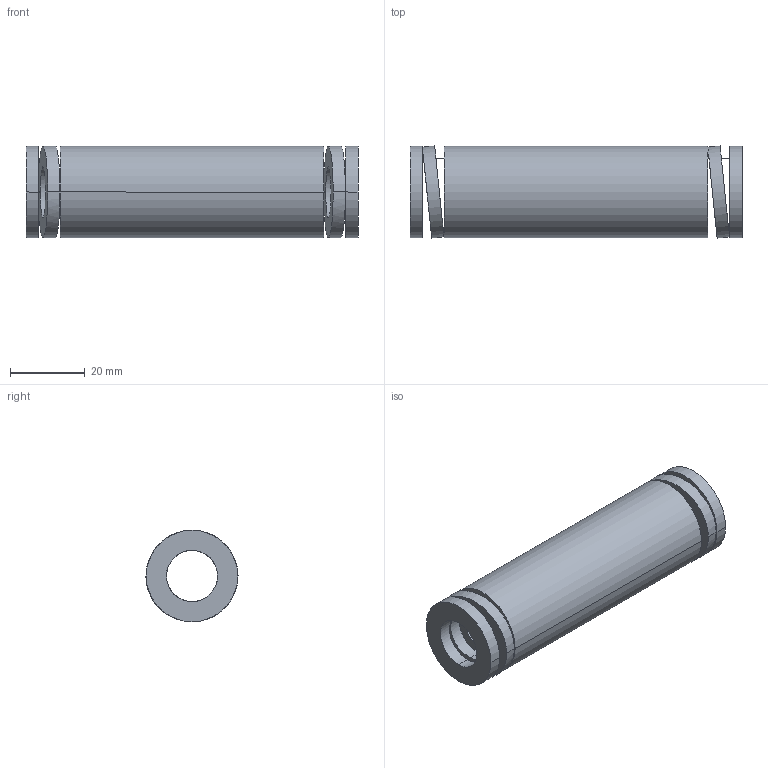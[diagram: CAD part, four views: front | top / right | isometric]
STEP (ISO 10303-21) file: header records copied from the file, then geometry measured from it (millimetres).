
FILE_DESCRIPTION(('CATIA V5 STEP Exchange'),'2;1');
FILE_NAME('C:\Users\Utente\Desktop\IO LAVORO\3D X SITO CF\X SITO\3D files 392B\392-B25-089.stp','2021-08-13T07:47:14+00:00',('none'),('none'),'CATIA Version 5 Release 20 GA (IN-10)','CATIA V5 STEP AP203','none');
FILE_SCHEMA(('CONFIG_CONTROL_DESIGN'));
Length unit declared in the file: millimetre
Products named in the file (1): 392-B25-089
Bounding box: 89 x 24.71 x 24.5 mm (x, y, z)
Volume: 27157.6 mm3; surface area: 13301.8 mm2
Topology: 1 solids, 1 shells, 38 faces, 92 edges, 64 vertices
Faces by surface type: cylinder 28, plane 10
Entity records: 1602 total; most frequent: CARTESIAN_POINT 719, ORIENTED_EDGE 184, DIRECTION 126, EDGE_CURVE 92, VERTEX_POINT 64, AXIS2_PLACEMENT_3D 61, EDGE_LOOP 56, B_SPLINE_CURVE_WITH_KNOTS 42
